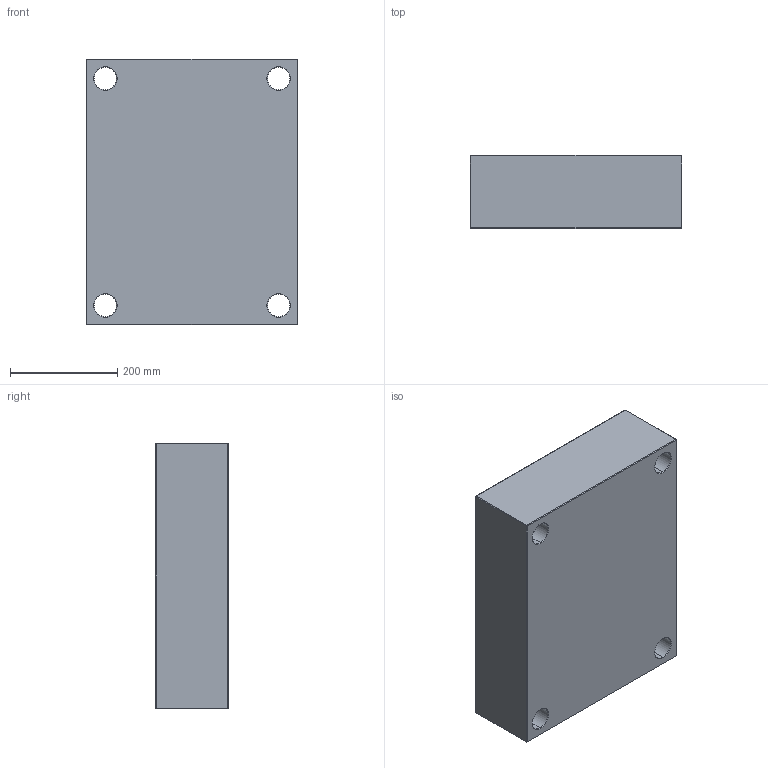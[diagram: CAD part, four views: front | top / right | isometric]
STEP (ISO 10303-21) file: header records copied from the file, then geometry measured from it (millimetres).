
FILE_DESCRIPTION (( 'STEP AP214' ), '1' );
FILE_NAME ('PC-396x496x136.STEP', '2020-04-21T17:25:17', ( 'August' ), ( '' ), 'SwSTEP 2.0', 'SolidWorks 2018', '' );
FILE_SCHEMA (( 'AUTOMOTIVE_DESIGN' ));
Length unit declared in the file: millimetre
Products named in the file (1): PC-396x496x136
Bounding box: 396 x 136 x 496 mm (x, y, z)
Volume: 25925372.2 mm3; surface area: 698476.7 mm2
Topology: 1 solids, 1 shells, 82 faces, 168 edges, 96 vertices
Faces by surface type: plane 34, cone 24, cylinder 24
Entity records: 2170 total; most frequent: DIRECTION 406, CARTESIAN_POINT 347, ORIENTED_EDGE 336, EDGE_CURVE 168, AXIS2_PLACEMENT_3D 155, EDGE_LOOP 98, LINE 96, VECTOR 96
